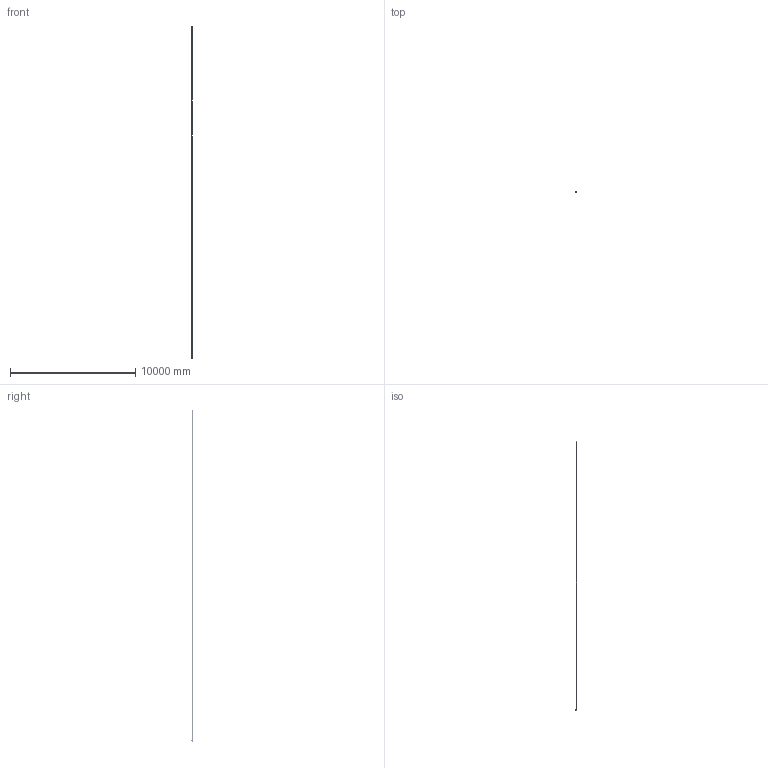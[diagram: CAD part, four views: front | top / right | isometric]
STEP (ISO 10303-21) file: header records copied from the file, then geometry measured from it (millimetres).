
FILE_DESCRIPTION(('Creo Elements/Direct Modeling STEP Export'),'2;1');
FILE_NAME('L-262.stp','2011-11-29T16:48:34',(''),(''),'Creo Elements/Direct Modeling STEP processor for AP214 (Solid Model)','Creo Elements/Direct Modeling 17.0C 05-Feb-2011 (C) Parametric Technology GmbH','');
FILE_SCHEMA(('AUTOMOTIVE_DESIGN { 1 0 10303 214 1 1 1 1 }'));
Length unit declared in the file: millimetre
Products named in the file (5): Modulos_intermedio_(FL-14).14; Modulo_der_(10-ET); Modulo_izq_(L-KT); CABEZA; L-262
Assembly tree (20 placements, depth 2):
  L-262
    Modulos_intermedio_(FL-14).14  x17
    CABEZA
    Modulo_izq_(L-KT)
    Modulo_der_(10-ET)
Bounding box: 51.5 x 87.95 x 26549.1 mm (x, y, z)
Volume: 64271973.8 mm3; surface area: 7776527.5 mm2
Topology: 41 solids, 200 shells, 11825 faces, 32834 edges, 20937 vertices
Faces by surface type: cylinder 5153, plane 4434, cone 934, torus 604, bspline 494, extrusion 180, sphere 26
Entity records: 124996 total; most frequent: CARTESIAN_POINT 35762, ORIENTED_EDGE 18834, DIRECTION 16786, EDGE_CURVE 9397, VERTEX_POINT 6087, AXIS2_PLACEMENT_3D 5939, VECTOR 4908, LINE 4888
